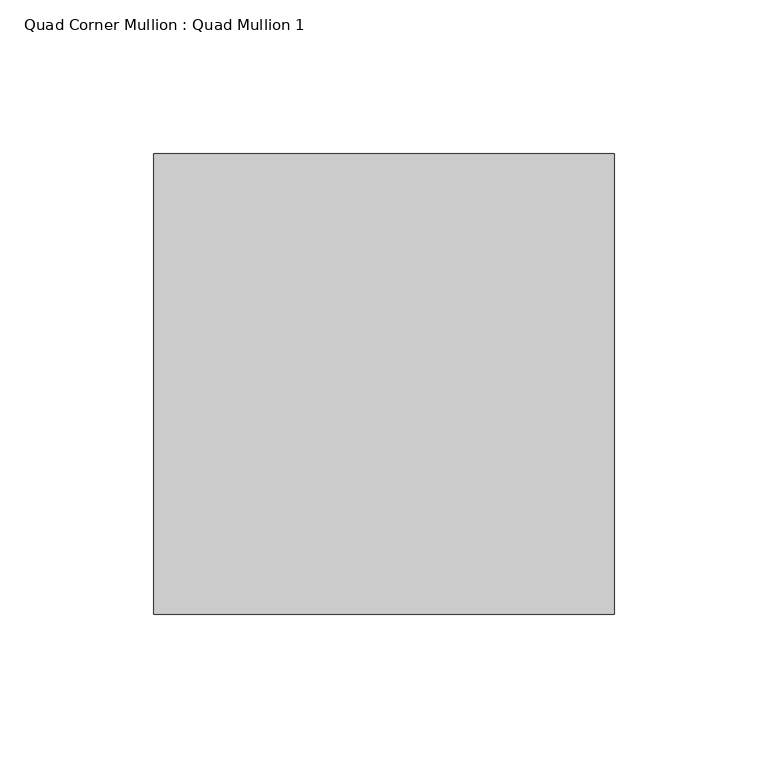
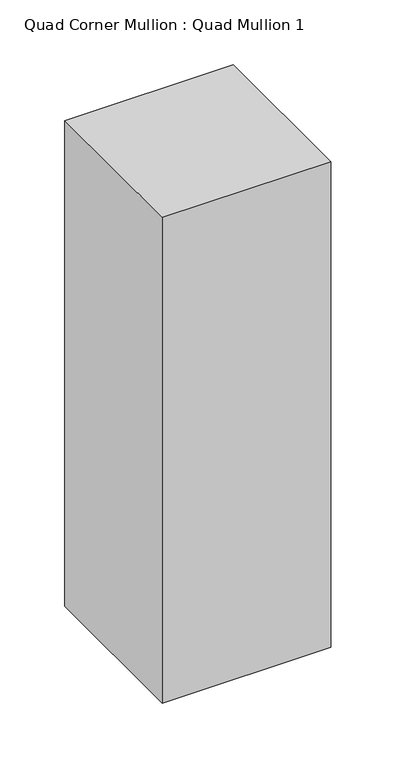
"""IFC4 building model written with IfcOpenShell, lengths in millimetres: member geometry, Quad Corner Mullion : Quad Mullion 1."""

import ifcopenshell
import ifcopenshell.guid

model = None  # the IFC model being written
_history = None  # IfcOwnerHistory: only IFC2X3 demands one
_inside = {}  # id of a spatial element -> (the spatial element, [elements in it])
_under = {}  # id of a project, library or spatial element -> (it, [spatial elements below it])
_declared = {}  # id of a project -> (the project, [libraries it declares])
_typed = {}  # id of a type object -> (the type object, [elements of that type])
_made_of = {}  # id of a material, layer set ... -> (it, [elements and type objects made of it])


def new_model(schema):
    """Start an empty IFC model of exactly this schema.

    Asked for "IFC4X3", IfcOpenShell would pick the latest addendum, in which some entities
    have other attributes; the version numbers below select the first issue.
    IFC2X3 requires an IfcOwnerHistory on every rooted entity: one is made here for all.
    """
    global model, _history
    if schema == "IFC4X3":
        model = ifcopenshell.file(schema_version=(4, 3, 0, 0))
    else:
        model = ifcopenshell.file(schema=schema)
    _inside.clear()
    _under.clear()
    _declared.clear()
    _typed.clear()
    _made_of.clear()
    _history = None
    if model.schema == "IFC2X3":
        org = make("IfcOrganization", Name="unknown")
        user = make(
            "IfcPersonAndOrganization",
            ThePerson=make("IfcPerson", FamilyName="unknown"),
            TheOrganization=org,
        )
        app = make(
            "IfcApplication",
            ApplicationDeveloper=org,
            Version="unknown",
            ApplicationFullName="unknown",
            ApplicationIdentifier="unknown",
        )
        _history = make(
            "IfcOwnerHistory",
            OwningUser=user,
            OwningApplication=app,
            ChangeAction="ADDED",
            CreationDate=0,
        )
    return model


def make(cls, **values):
    """One entity of the class cls with the attributes given. An attribute that is None is left unset."""
    return model.create_entity(
        cls, **{name: value for name, value in values.items() if value is not None}
    )


def rooted(cls, **values):
    """An entity with a GlobalId (a new one), such as an element, a storey or a relation."""
    return make(cls, GlobalId=ifcopenshell.guid.new(), OwnerHistory=_history, **values)


def si_unit(unit_type, name, prefix=None):
    """IfcSIUnit, for example si_unit("LENGTHUNIT", "METRE", prefix="MILLI")."""
    return make("IfcSIUnit", UnitType=unit_type, Prefix=prefix, Name=name)


def assignment(units):
    """IfcUnitAssignment: the units of a project."""
    return None if units is None else make("IfcUnitAssignment", Units=units)


def point(xyz):
    """IfcCartesianPoint."""
    return None if xyz is None else make("IfcCartesianPoint", Coordinates=xyz)


def direction(xyz):
    """IfcDirection."""
    return None if xyz is None else make("IfcDirection", DirectionRatios=xyz)


def frame(location, z_axis=None, x_axis=None):
    """IfcAxis2Placement3D, a coordinate frame: its origin and axes. An axis left out is left unset."""
    return make(
        "IfcAxis2Placement3D",
        Location=point(location),
        Axis=direction(z_axis),
        RefDirection=direction(x_axis),
    )


def origin():
    """The frame at (0, 0, 0) with its axes left unset."""
    return frame((0.0, 0.0, 0.0))


def place(relative_to, where):
    """IfcLocalPlacement: puts the frame where relative to a parent placement (None: the world)."""
    return make(
        "IfcLocalPlacement", PlacementRelTo=relative_to, RelativePlacement=where
    )


def context(
    kind, dimensions, precision=None, world=None, true_north=None, identifier=None
):
    """IfcGeometricRepresentationContext, for example the 3D "Model" context."""
    return make(
        "IfcGeometricRepresentationContext",
        ContextIdentifier=identifier,
        ContextType=kind,
        CoordinateSpaceDimension=dimensions,
        Precision=precision,
        WorldCoordinateSystem=world,
        TrueNorth=true_north,
    )


def project(units=None, contexts=None):
    """IfcProject with its units and contexts."""
    return rooted(
        "IfcProject",
        Name="project",
        RepresentationContexts=contexts,
        UnitsInContext=assignment(units),
    )


def spatial(cls, under=None, at=None, **own):
    """A site, building, storey or space (cls), placed at a placement, below another one or the project."""
    s = rooted(cls, ObjectPlacement=at, **own)
    if under is not None:
        _under.setdefault(under.id(), (under, []))[1].append(s)
    return s


def polyline(points):
    """IfcPolyline through the points."""
    return make("IfcPolyline", Points=[point(p) for p in points])


def outline(outer, holes=None, kind="AREA"):
    """IfcArbitraryClosedProfileDef: a profile drawn as a closed curve; with holes, ...WithVoids."""
    if holes is None:
        return make("IfcArbitraryClosedProfileDef", ProfileType=kind, OuterCurve=outer)
    return make(
        "IfcArbitraryProfileDefWithVoids",
        ProfileType=kind,
        OuterCurve=outer,
        InnerCurves=holes,
    )


def extrude(swept, where, along, depth):
    """IfcExtrudedAreaSolid: the profile swept, set in the frame where, extruded along a direction by depth."""
    return make(
        "IfcExtrudedAreaSolid",
        SweptArea=swept,
        Position=where,
        ExtrudedDirection=direction(along),
        Depth=depth,
    )


def shape(context_of_items, identifier, shape_type, items):
    """IfcShapeRepresentation: the items that make up one representation, for example the "Body"."""
    return make(
        "IfcShapeRepresentation",
        ContextOfItems=context_of_items,
        RepresentationIdentifier=identifier,
        RepresentationType=shape_type,
        Items=items,
    )


def source(mapping_origin, context_of_items, identifier, shape_type, items):
    """IfcRepresentationMap: a shape defined once, which mapped items show again and again."""
    return make(
        "IfcRepresentationMap",
        MappingOrigin=mapping_origin,
        MappedRepresentation=shape(context_of_items, identifier, shape_type, items),
    )


def transform(
    local_origin,
    x_axis=None,
    y_axis=None,
    z_axis=None,
    scale=None,
    scale2=None,
    scale3=None,
    uniform=True,
):
    """IfcCartesianTransformationOperator3D, or its non-uniform kind. x_axis, y_axis, z_axis: its Axis1, 2, 3."""
    if uniform:
        return make(
            "IfcCartesianTransformationOperator3D",
            Axis1=direction(x_axis),
            Axis2=direction(y_axis),
            LocalOrigin=point(local_origin),
            Scale=scale,
            Axis3=direction(z_axis),
        )
    return make(
        "IfcCartesianTransformationOperator3DnonUniform",
        Axis1=direction(x_axis),
        Axis2=direction(y_axis),
        LocalOrigin=point(local_origin),
        Scale=scale,
        Axis3=direction(z_axis),
        Scale2=scale2,
        Scale3=scale3,
    )


def mapped(mapping_source, mapping_target):
    """IfcMappedItem: shows the shape of a source again, moved by a transform."""
    return make(
        "IfcMappedItem", MappingSource=mapping_source, MappingTarget=mapping_target
    )


def made_of(thing, what):
    """Note that an element or type object is made of a material, layer set ...; save() writes the relation."""
    if what is not None:
        _made_of.setdefault(what.id(), (what, []))[1].append(thing)
    return thing


def element(
    cls,
    number,
    at=None,
    inside=None,
    cuts=None,
    type_object=None,
    material=None,
    context=None,
    identifier="Body",
    shape_type=None,
    held_by="IfcProductDefinitionShape",
    body=None,
    shapes=None,
    **own,
):
    """One element of the class cls, such as IfcWall. Its Tag is "e" and its number.

    at: its placement. inside: the storey or other place that contains it. cuts: it is an
    opening in that element (IfcRelVoidsElement). A single representation is given by context,
    identifier, shape_type and body (its items); several are given by shapes. held_by: the class
    of the entity that holds the representations. save() writes the other relations.
    """
    e = rooted(cls, Tag="e%d" % number, ObjectPlacement=at, **own)
    if body is not None:
        shapes = [shape(context, identifier, shape_type, body)]
    if shapes is not None:
        e.Representation = make(held_by, Representations=shapes)
    if inside is not None:
        _inside.setdefault(inside.id(), (inside, []))[1].append(e)
    if cuts is not None:
        rooted(
            "IfcRelVoidsElement", RelatingBuildingElement=cuts, RelatedOpeningElement=e
        )
    if type_object is not None:
        _typed.setdefault(type_object.id(), (type_object, []))[1].append(e)
    return made_of(e, material)


def aggregate(whole, parts):
    """IfcRelAggregates: a whole, such as a stair, and the parts it consists of."""
    return rooted("IfcRelAggregates", RelatingObject=whole, RelatedObjects=parts)


def save(model, path):
    """Write the relations noted so far, then the file.

    IfcRelAggregates (storeys below a building ...), IfcRelContainedInSpatialStructure (elements
    in a storey), IfcRelDefinesByType, IfcRelAssociatesMaterial and IfcRelDeclares: one each for
    every whole, place, type object, material and project.
    """
    for whole, parts in _under.values():
        aggregate(whole, parts)
    for where, things in _inside.values():
        rooted(
            "IfcRelContainedInSpatialStructure",
            RelatedElements=things,
            RelatingStructure=where,
        )
    for kind, things in _typed.values():
        rooted("IfcRelDefinesByType", RelatedObjects=things, RelatingType=kind)
    for what, things in _made_of.values():
        rooted("IfcRelAssociatesMaterial", RelatedObjects=things, RelatingMaterial=what)
    for by, libraries in _declared.values():
        rooted("IfcRelDeclares", RelatingContext=by, RelatedDefinitions=libraries)
    model.write(path)


def quad_corner_mullion_quad_mullion_1_1bba9a7c(model_context):
    return source(origin(), model_context, "Body", "SweptSolid", [
        extrude(outline(polyline([(75.0, -75.0), (-75.0, -75.0), (-75.0, 75.0), (75.0, 75.0), (75.0, -75.0)])), frame((0.0, 0.0, -457.2), z_axis=(0.0, 0.0, 1.0), x_axis=(1.0, 0.0, 0.0)), (0.0, 0.0, 1.0), 457.2),
    ])


if __name__ == "__main__":
    model = new_model("IFC4")
    model_context = context("Model", 3, world=origin())
    ifc_project = project(units=[si_unit("LENGTHUNIT", "METRE", prefix="MILLI")], contexts=[model_context])
    site = spatial("IfcSite", under=ifc_project)
    building = spatial("IfcBuilding", under=site)
    placement = place(None, origin())
    quad_corner_mullion_quad_mullion_1_shape = quad_corner_mullion_quad_mullion_1_1bba9a7c(model_context)
    element("IfcMember", 1, ObjectType="Quad Corner Mullion : Quad Mullion 1", at=placement, inside=building, context=model_context, shape_type="MappedRepresentation", body=[
        mapped(quad_corner_mullion_quad_mullion_1_shape, transform((0.0, 0.0, 0.0), x_axis=(1.0, 0.0, 0.0), y_axis=(0.0, 1.0, 0.0), z_axis=(0.0, 0.0, 1.0))),
    ])
    save(model, "model.ifc")
